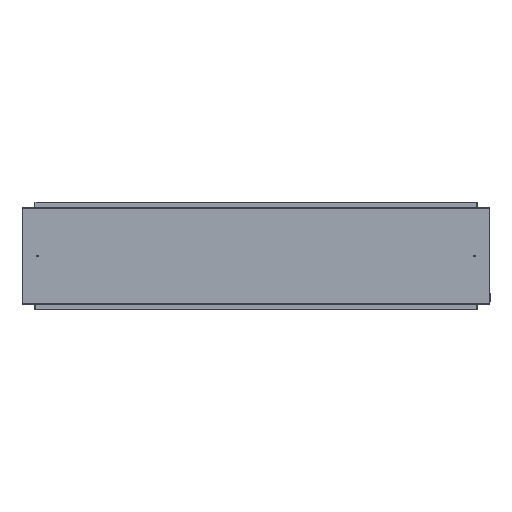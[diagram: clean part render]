
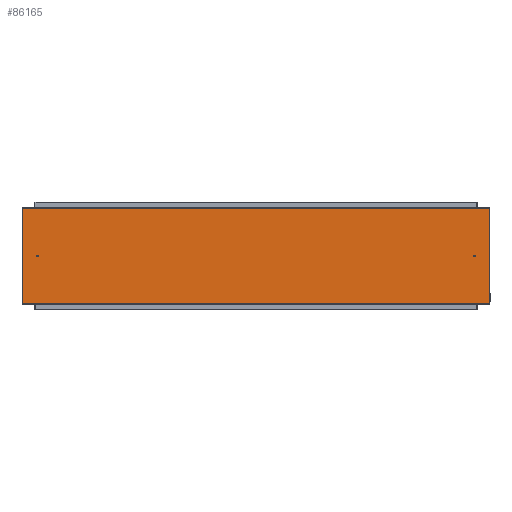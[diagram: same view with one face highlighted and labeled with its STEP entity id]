
A CAD part, left-side view. The second image highlights one B-rep face of the part: STEP entity #86165.
In plain terms, the highlighted planar face has unit normal (-1, 0, 0) as drawn and (0, 0, -1) by its records, which use the part's own axes.
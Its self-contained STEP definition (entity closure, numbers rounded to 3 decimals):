
#3647 = VECTOR ( 'NONE', #6990, 1000. ) ;
#3807 = CARTESIAN_POINT ( 'NONE',  ( 183.49, -898.5, 0. ) ) ;
#6990 = DIRECTION ( 'NONE',  ( 0., -1., 0. ) ) ;
#7545 = ORIENTED_EDGE ( 'NONE', *, *, #72429, .F. ) ;
#8034 = CARTESIAN_POINT ( 'NONE',  ( -183.49, 898.5, 0. ) ) ;
#9064 = VERTEX_POINT ( 'NONE', #33263 ) ;
#14124 = CARTESIAN_POINT ( 'NONE',  ( -183.49, 898.5, 0. ) ) ;
#19146 = VECTOR ( 'NONE', #22436, 1000. ) ;
#21361 = LINE ( 'NONE', #83931, #3647 ) ;
#22436 = DIRECTION ( 'NONE',  ( 0., 1., 0. ) ) ;
#31572 = VERTEX_POINT ( 'NONE', #43990 ) ;
#32445 = EDGE_CURVE ( 'NONE', #9064, #86391, #60259, .T. ) ;
#33014 = EDGE_LOOP ( 'NONE', ( #55886, #70389, #69650, #7545 ) ) ;
#33263 = CARTESIAN_POINT ( 'NONE',  ( 183.49, 898.5, 0. ) ) ;
#35176 = AXIS2_PLACEMENT_3D ( 'NONE', #8034, #87031, #93713 ) ;
#37423 = CARTESIAN_POINT ( 'NONE',  ( -183.49, -898.5, 0. ) ) ;
#43990 = CARTESIAN_POINT ( 'NONE',  ( -183.49, -898.5, 0. ) ) ;
#52058 = DIRECTION ( 'NONE',  ( -1., 0., 0. ) ) ;
#55886 = ORIENTED_EDGE ( 'NONE', *, *, #81911, .F. ) ;
#60259 = LINE ( 'NONE', #14124, #91697 ) ;
#63437 = DIRECTION ( 'NONE',  ( 1., 0., 0. ) ) ;
#63922 = PLANE ( 'NONE',  #35176 ) ;
#64426 = FACE_OUTER_BOUND ( 'NONE', #33014, .T. ) ;
#66927 = VECTOR ( 'NONE', #63437, 1000. ) ;
#69650 = ORIENTED_EDGE ( 'NONE', *, *, #70678, .F. ) ;
#70389 = ORIENTED_EDGE ( 'NONE', *, *, #32445, .F. ) ;
#70678 = EDGE_CURVE ( 'NONE', #79183, #9064, #100929, .T. ) ;
#72429 = EDGE_CURVE ( 'NONE', #31572, #79183, #79856, .T. ) ;
#79183 = VERTEX_POINT ( 'NONE', #3807 ) ;
#79856 = LINE ( 'NONE', #37423, #66927 ) ;
#81344 = CARTESIAN_POINT ( 'NONE',  ( -183.49, 898.5, 0. ) ) ;
#81911 = EDGE_CURVE ( 'NONE', #86391, #31572, #21361, .T. ) ;
#83931 = CARTESIAN_POINT ( 'NONE',  ( -183.49, 898.5, 0. ) ) ;
#86165 = ADVANCED_FACE ( 'NONE', ( #64426 ), #63922, .F. ) ;
#86391 = VERTEX_POINT ( 'NONE', #81344 ) ;
#87031 = DIRECTION ( 'NONE',  ( 0., 0., 1. ) ) ;
#91697 = VECTOR ( 'NONE', #52058, 1000. ) ;
#92719 = CARTESIAN_POINT ( 'NONE',  ( 183.49, 898.5, 0. ) ) ;
#93713 = DIRECTION ( 'NONE',  ( 1., 0., 0. ) ) ;
#100929 = LINE ( 'NONE', #92719, #19146 ) ;
